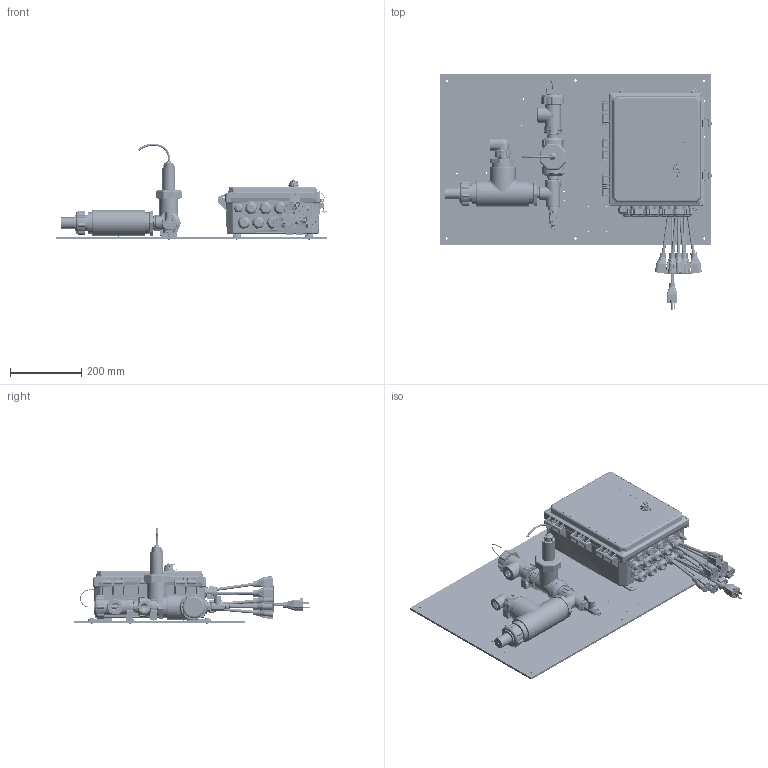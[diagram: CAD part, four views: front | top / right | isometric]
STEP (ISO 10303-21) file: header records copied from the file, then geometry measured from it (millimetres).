
FILE_DESCRIPTION (( 'STEP AP203' ), '1' );
FILE_NAME ('W900-CT-PCPNNN.STEP', '2019-05-07T13:58:23', ( '' ), ( '' ), 'SwSTEP 2.0', 'SolidWorks 2019', '' );
FILE_SCHEMA (( 'CONFIG_CONTROL_DESIGN' ));
Length unit declared in the file: inch
Products named in the file (52): SHELL-102986; 102903_102903; SHELL-102061; SHELL-102817-01; SHELL-103859_Cord1; IMS0041; SHELL-102377ws; SHELL-102938; SHELL-190996; 102906; IMS0013; SHELL-191157wo; W900 Shell; IMS0042; SHELL-102881; IMS0005; 103860_Cord1; IMS0012; SHELL-102423; SHELL-102961_30075T212; SHELL-ST-500; SHELL-102882; SHELL-103283-FT; SHELL-191020-XX; 103861; SHELL-103515; SHELL-191638; SHELL-103886_98273A320; W900-CT-PCPNNN Manifold; SHELL-102919; IMS0035_91500A537; SHELL-102586; ISA0006; SHELL-102381_4880K345; IMS0038; 102961ws; W900-CT-PCPNNN; SHELL-102594; SHELL-103893_91772A829; Flow Switch Assembly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
Assembly tree (88 placements, depth 6):
  W900-CT-PCPNNN
    SHELL-102938
    W900 Shell
      W900 Shell
      SHELL-103283-FT  x4
      IMS0035_91500A537  x4
      SHELL-103893_91772A829  x4
      ISA0006
        102907
        102903_102903
        102906
        103860_Cord1  x3
        103861
      ISA0006
        102907
        102903_102903
        102906
        103860_Cord1  x3
        103861
      ISA0006
        102907
        102903_102903
        102906
        103860_Cord1  x3
        103861
      SHELL-103859_Cord1
    102961ws
      SHELL-102961_30075T212
      SHELL-103886_98273A320
    SHELL-102377ws
      SHELL-103886_98273A320
      SHELL-102377_30075T211
    SHELL-102377ws
      SHELL-103886_98273A320
      SHELL-102377_30075T211
    W900-CT-PCPNNN Manifold
      Flow Switch Assembly
        SHELL-102881
        SHELL-191020-XX
          SHELL-102882
          SHELL-102919
          SHELL-102594
          SHELL-190996
            SHELL-102880
            SHELL-102986  x2
          IMS0005
        SHELL-102586
      SHELL-103425_4882K14  x4
      SHELL-102061
      SHELL-103515
        IMS0013
        IMS0012
      SHELL-102381_4880K345
      SHELL-191157wo
        SHELL-103133
        SHELL-103134  x2
        SHELL-102817-01
        SHELL-102594
      SHELL-102423
      SHELL-191638
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Bounding box: 764.69 x 665.28 x 271.95 mm (x, y, z)
Volume: 5946505.1 mm3; surface area: 2385958.8 mm2
Topology: 121 solids, 121 shells, 17797 faces, 46522 edges, 29056 vertices
Faces by surface type: plane 7335, cylinder 5308, bspline 3334, cone 1043, torus 604, sphere 173
Entity records: 660006 total; most frequent: CARTESIAN_POINT 339171, ORIENTED_EDGE 74934, DIRECTION 52962, EDGE_CURVE 37467, VERTEX_POINT 23488, AXIS2_PLACEMENT_3D 18594, VECTOR 15774, LINE 15774
